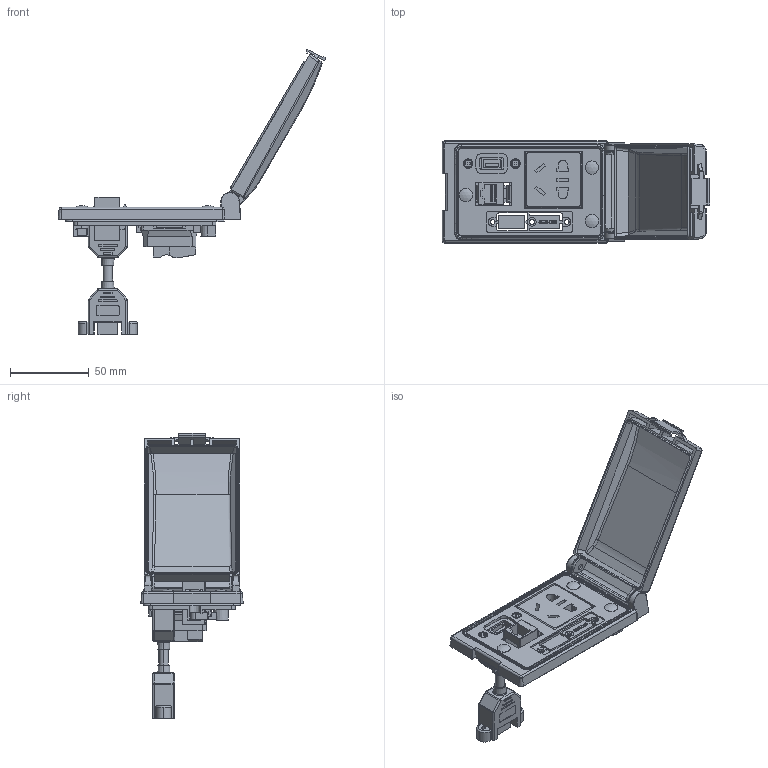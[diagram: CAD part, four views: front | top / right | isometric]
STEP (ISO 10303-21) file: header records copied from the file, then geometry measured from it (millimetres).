
FILE_DESCRIPTION (( 'STEP AP203' ), '1' );
FILE_NAME ('9145200.STEP', '2020-11-24T09:04:22', ( '' ), ( '' ), 'SwSTEP 2.0', 'SolidWorks 2016', '' );
FILE_SCHEMA (( 'CONFIG_CONTROL_DESIGN' ));
Length unit declared in the file: millimetre
Products named in the file (1): 9145200
Bounding box: 169.88 x 65 x 181.03 mm (x, y, z)
Volume: 103015.1 mm3; surface area: 70528.9 mm2
Topology: 7 solids, 9 shells, 2152 faces, 5778 edges, 3676 vertices
Faces by surface type: plane 1149, cylinder 553, bspline 269, cone 101, torus 46, sphere 34
Entity records: 81138 total; most frequent: CARTESIAN_POINT 31055, ORIENTED_EDGE 11446, DIRECTION 8773, EDGE_CURVE 5723, VERTEX_POINT 3669, LINE 3131, VECTOR 3131, AXIS2_PLACEMENT_3D 2821
